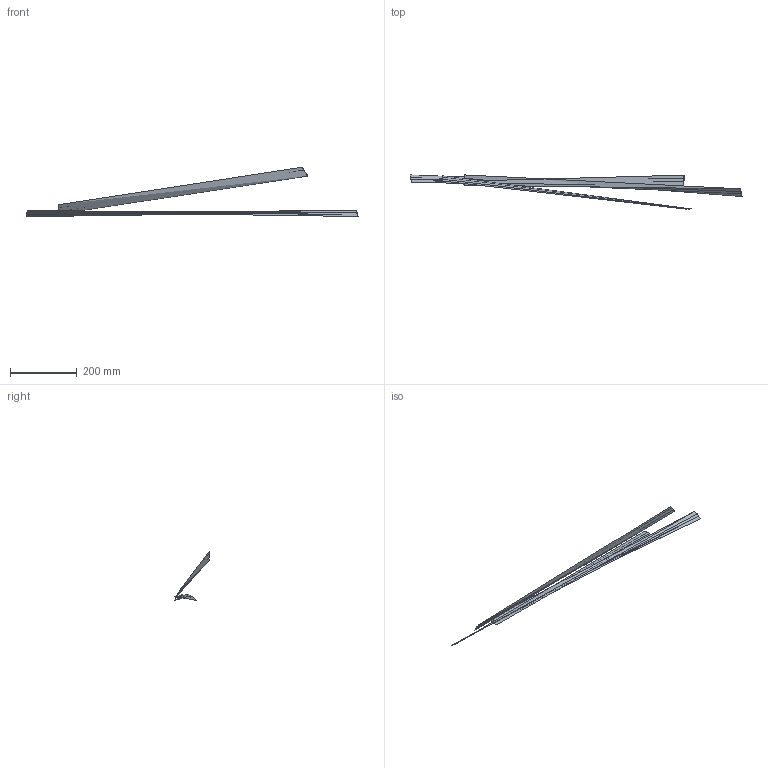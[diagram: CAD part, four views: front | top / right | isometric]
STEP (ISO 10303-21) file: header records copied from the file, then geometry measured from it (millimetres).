
FILE_DESCRIPTION(/* description */ (''),/* implementation_level */ '2;1');
FILE_NAME(/* name */ 'SkLO_SC135_Coil32_Object',/* time_stamp */ '2024-08-06T15:45:59+02:00',/* author */ (''),/* organization */ (''),/* preprocessor_version */ 'ST-DEVELOPER v16.5',/* originating_system */ 'Rhino 7.34',/* authorisation */ '');
FILE_SCHEMA (('CONFIG_CONTROL_DESIGN'));
Length unit declared in the file: millimetre
Products named in the file (1): Document
Bounding box: 994.21 x 102.54 x 147.99 mm (x, y, z)
Volume: 1335931.6 mm3; surface area: 401141.5 mm2
Topology: 2 solids, 3 shells, 40 faces, 89 edges, 48 vertices
Faces by surface type: bspline 36, plane 4
Entity records: 123673 total; most frequent: CARTESIAN_POINT 123018, ORIENTED_EDGE 173, EDGE_CURVE 90, B_SPLINE_CURVE_WITH_KNOTS 74, VERTEX_POINT 48, EDGE_LOOP 42, ADVANCED_FACE 40, FACE_OUTER_BOUND 40
